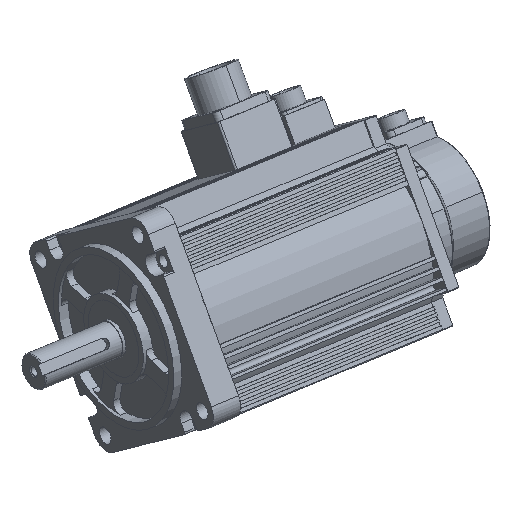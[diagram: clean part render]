
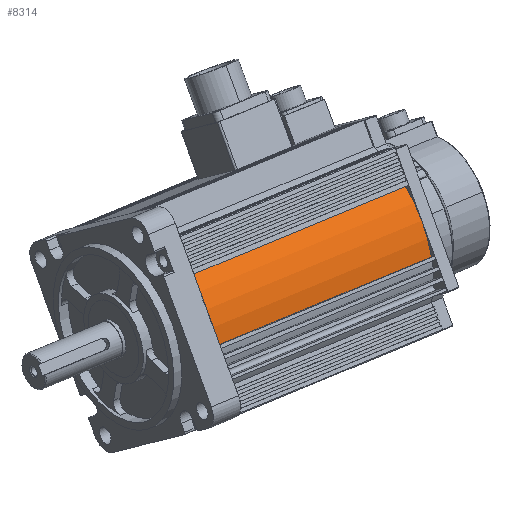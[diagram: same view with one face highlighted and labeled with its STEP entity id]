
A CAD part, isometric view. The second image highlights one B-rep face of the part: STEP entity #8314.
In plain terms, the highlighted cylindrical face has radius 55 mm (diameter 110 mm), a partial arc.
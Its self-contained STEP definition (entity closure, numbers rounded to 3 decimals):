
#32 = LINE ( 'NONE', #25172, #11881 ) ;
#131 = DIRECTION ( 'NONE',  ( -1., 0., 0. ) ) ;
#435 = CARTESIAN_POINT ( 'NONE',  ( 51.795, 18.5, -29. ) ) ;
#2309 = EDGE_CURVE ( 'NONE', #18202, #5142, #26511, .T. ) ;
#2569 = CIRCLE ( 'NONE', #22201, 55. ) ;
#3088 = FACE_OUTER_BOUND ( 'NONE', #24564, .T. ) ;
#4524 = LINE ( 'NONE', #21543, #28863 ) ;
#5110 = DIRECTION ( 'NONE',  ( 1., 0., 0. ) ) ;
#5142 = VERTEX_POINT ( 'NONE', #27115 ) ;
#6078 = DIRECTION ( 'NONE',  ( 0., 0., -1. ) ) ;
#7519 = ORIENTED_EDGE ( 'NONE', *, *, #11292, .T. ) ;
#7542 = CARTESIAN_POINT ( 'NONE',  ( 0., 0., -29. ) ) ;
#8314 = ADVANCED_FACE ( 'NONE', ( #3088 ), #25729, .T. ) ;
#9001 = CARTESIAN_POINT ( 'NONE',  ( 0., 0., 105. ) ) ;
#9258 = CARTESIAN_POINT ( 'NONE',  ( 51.795, -18.5, -29. ) ) ;
#10109 = CARTESIAN_POINT ( 'NONE',  ( 51.795, -18.5, 105. ) ) ;
#11292 = EDGE_CURVE ( 'NONE', #21852, #14200, #2569, .T. ) ;
#11881 = VECTOR ( 'NONE', #27462, 1000. ) ;
#14200 = VERTEX_POINT ( 'NONE', #435 ) ;
#16185 = AXIS2_PLACEMENT_3D ( 'NONE', #9001, #24560, #131 ) ;
#16626 = ORIENTED_EDGE ( 'NONE', *, *, #20854, .T. ) ;
#18202 = VERTEX_POINT ( 'NONE', #10109 ) ;
#18688 = DIRECTION ( 'NONE',  ( 0., 0., 1. ) ) ;
#19013 = DIRECTION ( 'NONE',  ( 1., 0., 0. ) ) ;
#20854 = EDGE_CURVE ( 'NONE', #18202, #21852, #32, .T. ) ;
#21408 = ORIENTED_EDGE ( 'NONE', *, *, #28627, .F. ) ;
#21543 = CARTESIAN_POINT ( 'NONE',  ( 51.795, 18.5, 105. ) ) ;
#21852 = VERTEX_POINT ( 'NONE', #9258 ) ;
#21945 = ORIENTED_EDGE ( 'NONE', *, *, #2309, .F. ) ;
#22201 = AXIS2_PLACEMENT_3D ( 'NONE', #7542, #18688, #5110 ) ;
#24560 = DIRECTION ( 'NONE',  ( 0., 0., -1. ) ) ;
#24564 = EDGE_LOOP ( 'NONE', ( #16626, #7519, #21408, #21945 ) ) ;
#25172 = CARTESIAN_POINT ( 'NONE',  ( 51.795, -18.5, 105. ) ) ;
#25729 = CYLINDRICAL_SURFACE ( 'NONE', #16185, 55. ) ;
#26511 = CIRCLE ( 'NONE', #27986, 55. ) ;
#27115 = CARTESIAN_POINT ( 'NONE',  ( 51.795, 18.5, 105. ) ) ;
#27285 = CARTESIAN_POINT ( 'NONE',  ( 0., 0., 105. ) ) ;
#27462 = DIRECTION ( 'NONE',  ( 0., 0., -1. ) ) ;
#27755 = DIRECTION ( 'NONE',  ( 0., 0., 1. ) ) ;
#27986 = AXIS2_PLACEMENT_3D ( 'NONE', #27285, #27755, #19013 ) ;
#28627 = EDGE_CURVE ( 'NONE', #5142, #14200, #4524, .T. ) ;
#28863 = VECTOR ( 'NONE', #6078, 1000. ) ;
